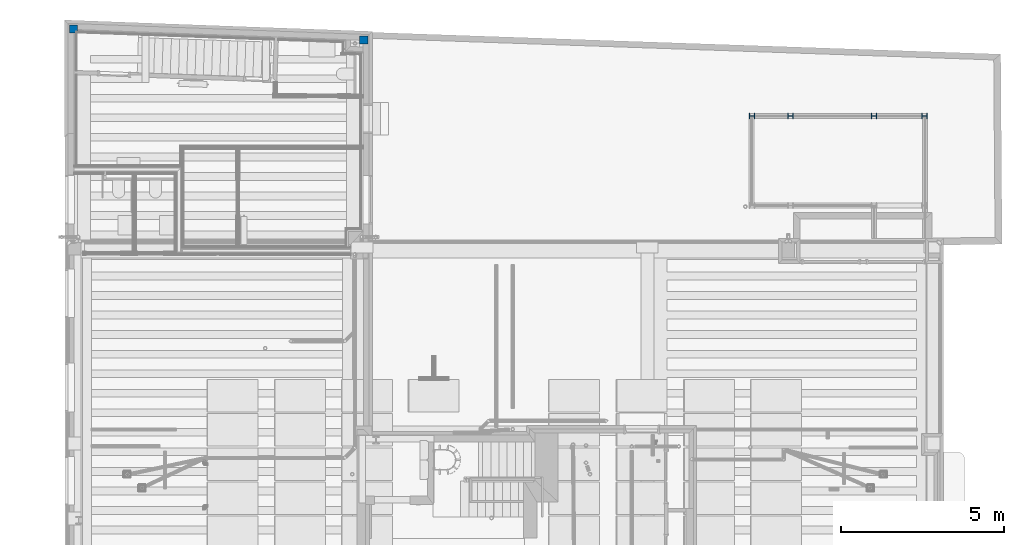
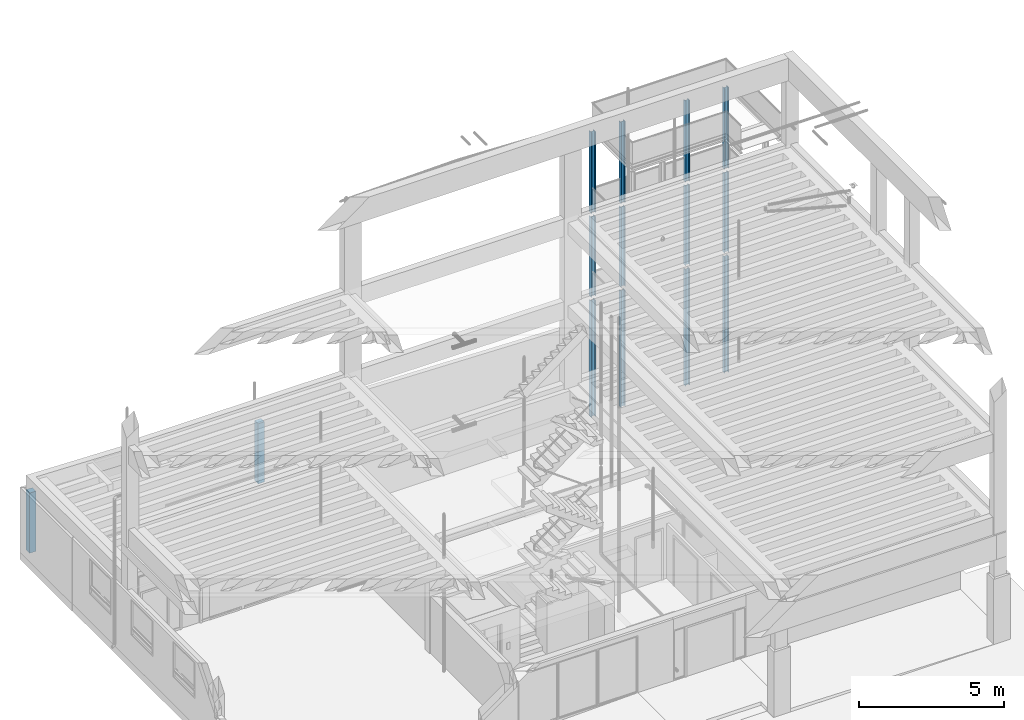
# One storey, part 3 of 108: 14 columns.
"""IFC2X3 building model written with IfcOpenShell, lengths in metres."""

from ifc_helpers import new_model, entity, si_unit, converted_unit, derived_unit, money_unit, direction, frame, frame_2d, origin_with_axes, place, context, subcontext, project, spatial, polyline, rectangle, outline, extrude, material, type_object, element, save


model = new_model("IFC2X3")

# Units and contexts
model_context = context("Model", 3, precision=1e-05, world=origin_with_axes(), true_north=direction((0.0, 1.0)))
body_context = subcontext(model_context, "Body", "Model", "MODEL_VIEW", scale=1.0)
ifc_project = project(units=[si_unit("LENGTHUNIT", "METRE"), si_unit("AREAUNIT", "SQUARE_METRE"), si_unit("VOLUMEUNIT", "CUBIC_METRE"), si_unit("ABSORBEDDOSEUNIT", "GRAY"), si_unit("AMOUNTOFSUBSTANCEUNIT", "MOLE"), si_unit("DOSEEQUIVALENTUNIT", "SIEVERT"), si_unit("ELECTRICCAPACITANCEUNIT", "FARAD"), si_unit("ELECTRICCHARGEUNIT", "COULOMB"), si_unit("ELECTRICCONDUCTANCEUNIT", "SIEMENS"), si_unit("ELECTRICCURRENTUNIT", "AMPERE"), si_unit("ELECTRICRESISTANCEUNIT", "OHM"), si_unit("ELECTRICVOLTAGEUNIT", "VOLT"), si_unit("ENERGYUNIT", "JOULE"), si_unit("FORCEUNIT", "NEWTON"), si_unit("FREQUENCYUNIT", "HERTZ"), si_unit("ILLUMINANCEUNIT", "LUX"), si_unit("INDUCTANCEUNIT", "HENRY"), si_unit("LUMINOUSFLUXUNIT", "LUMEN"), si_unit("LUMINOUSINTENSITYUNIT", "CANDELA"), si_unit("MAGNETICFLUXDENSITYUNIT", "TESLA"), si_unit("MAGNETICFLUXUNIT", "WEBER"), si_unit("MASSUNIT", "GRAM"), converted_unit("PLANEANGLEUNIT", "degree", entity("IfcReal", 0.0174532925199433), si_unit("PLANEANGLEUNIT", "RADIAN"), dimensions=[0, 0, 0, 0, 0, 0, 0]), si_unit("POWERUNIT", "WATT"), si_unit("PRESSUREUNIT", "PASCAL"), si_unit("RADIOACTIVITYUNIT", "BECQUEREL"), si_unit("SOLIDANGLEUNIT", "STERADIAN"), si_unit("THERMODYNAMICTEMPERATUREUNIT", "KELVIN"), si_unit("TIMEUNIT", "SECOND"), derived_unit("ACCELERATIONUNIT", [(si_unit("LENGTHUNIT", "METRE"), 1), (si_unit("TIMEUNIT", "SECOND"), -2)]), derived_unit("ANGULARVELOCITYUNIT", [(converted_unit("PLANEANGLEUNIT", "degree", entity("IfcReal", 0.0174532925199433), si_unit("PLANEANGLEUNIT", "RADIAN"), dimensions=[0, 0, 0, 0, 0, 0, 0]), 1), (si_unit("TIMEUNIT", "SECOND"), -1)]), derived_unit("CURVATUREUNIT", [(converted_unit("PLANEANGLEUNIT", "degree", entity("IfcReal", 0.0174532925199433), si_unit("PLANEANGLEUNIT", "RADIAN"), dimensions=[0, 0, 0, 0, 0, 0, 0]), 1), (si_unit("LENGTHUNIT", "METRE"), -1)]), derived_unit("DYNAMICVISCOSITYUNIT", [(si_unit("PRESSUREUNIT", "PASCAL"), 1), (si_unit("TIMEUNIT", "SECOND"), 1)]), derived_unit("HEATFLUXDENSITYUNIT", [(si_unit("POWERUNIT", "WATT"), 1), (si_unit("LENGTHUNIT", "METRE"), -2)]), derived_unit("HEATINGVALUEUNIT", [(si_unit("ENERGYUNIT", "JOULE"), 1), (si_unit("MASSUNIT", "GRAM"), -1)]), derived_unit("INTEGERCOUNTRATEUNIT", [(si_unit("TIMEUNIT", "SECOND"), -1)]), derived_unit("IONCONCENTRATIONUNIT", [(si_unit("MASSUNIT", "GRAM"), 1), (si_unit("VOLUMEUNIT", "CUBIC_METRE"), -1)]), derived_unit("ISOTHERMALMOISTURECAPACITYUNIT", [(si_unit("VOLUMEUNIT", "CUBIC_METRE"), 1), (si_unit("MASSUNIT", "GRAM"), -1)]), derived_unit("KINEMATICVISCOSITYUNIT", [(si_unit("AREAUNIT", "SQUARE_METRE"), 1), (si_unit("TIMEUNIT", "SECOND"), -1)]), derived_unit("LINEARFORCEUNIT", [(si_unit("FORCEUNIT", "NEWTON"), 1), (si_unit("LENGTHUNIT", "METRE"), -1)]), derived_unit("LINEARMOMENTUNIT", [(si_unit("FORCEUNIT", "NEWTON"), 1), (si_unit("LENGTHUNIT", "METRE"), -1)]), derived_unit("LINEARSTIFFNESSUNIT", [(si_unit("FORCEUNIT", "NEWTON"), 1), (si_unit("LENGTHUNIT", "METRE"), -1)]), derived_unit("LINEARVELOCITYUNIT", [(si_unit("LENGTHUNIT", "METRE"), 1), (si_unit("TIMEUNIT", "SECOND"), -1)]), derived_unit("LUMINOUSINTENSITYDISTRIBUTIONUNIT", [(si_unit("LUMINOUSINTENSITYUNIT", "CANDELA"), 1), (si_unit("LUMINOUSFLUXUNIT", "LUMEN"), -1)]), derived_unit("MASSDENSITYUNIT", [(si_unit("MASSUNIT", "GRAM"), 1), (si_unit("VOLUMEUNIT", "CUBIC_METRE"), -1)]), derived_unit("MASSFLOWRATEUNIT", [(si_unit("MASSUNIT", "GRAM"), 1), (si_unit("TIMEUNIT", "SECOND"), -1)]), derived_unit("MASSPERLENGTHUNIT", [(si_unit("MASSUNIT", "GRAM"), 1), (si_unit("LENGTHUNIT", "METRE"), -1)]), derived_unit("MODULUSOFELASTICITYUNIT", [(si_unit("FORCEUNIT", "NEWTON"), 1), (si_unit("AREAUNIT", "SQUARE_METRE"), -1)]), derived_unit("MODULUSOFLINEARSUBGRADEREACTIONUNIT", [(si_unit("FORCEUNIT", "NEWTON"), 1), (si_unit("LENGTHUNIT", "METRE"), -2)]), derived_unit("MODULUSOFROTATIONALSUBGRADEREACTIONUNIT", [(si_unit("FORCEUNIT", "NEWTON"), 1), (si_unit("LENGTHUNIT", "METRE"), 1)]), derived_unit("MODULUSOFSUBGRADEREACTIONUNIT", [(si_unit("FORCEUNIT", "NEWTON"), 1), (si_unit("VOLUMEUNIT", "CUBIC_METRE"), -1)]), derived_unit("MOISTUREDIFFUSIVITYUNIT", [(si_unit("VOLUMEUNIT", "CUBIC_METRE"), 1), (si_unit("TIMEUNIT", "SECOND"), -1)]), derived_unit("MOLECULARWEIGHTUNIT", [(si_unit("MASSUNIT", "GRAM"), 1), (si_unit("AMOUNTOFSUBSTANCEUNIT", "MOLE"), -1)]), derived_unit("PLANARFORCEUNIT", [(si_unit("FORCEUNIT", "NEWTON"), 1), (si_unit("LENGTHUNIT", "METRE"), -2)]), derived_unit("ROTATIONALFREQUENCYUNIT", [(si_unit("TIMEUNIT", "SECOND"), -1)]), derived_unit("ROTATIONALMASSUNIT", [(si_unit("MASSUNIT", "GRAM"), 1), (si_unit("LENGTHUNIT", "METRE"), 2)]), derived_unit("ROTATIONALSTIFFNESSUNIT", [(si_unit("FORCEUNIT", "NEWTON"), 1), (si_unit("LENGTHUNIT", "METRE"), 1), (converted_unit("PLANEANGLEUNIT", "degree", entity("IfcReal", 0.0174532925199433), si_unit("PLANEANGLEUNIT", "RADIAN"), dimensions=[0, 0, 0, 0, 0, 0, 0]), -1)]), derived_unit("SECTIONAREAINTEGRALUNIT", [(si_unit("LENGTHUNIT", "METRE"), 5)]), derived_unit("SECTIONMODULUSUNIT", [(si_unit("LENGTHUNIT", "METRE"), 3)]), derived_unit("SHEARMODULUSUNIT", [(si_unit("FORCEUNIT", "NEWTON"), 1), (si_unit("AREAUNIT", "SQUARE_METRE"), -1)]), derived_unit("SOUNDPOWERUNIT", [(si_unit("ENERGYUNIT", "JOULE"), 1), (si_unit("TIMEUNIT", "SECOND"), -1)]), derived_unit("SPECIFICHEATCAPACITYUNIT", [(si_unit("FORCEUNIT", "NEWTON"), 1), (si_unit("MASSUNIT", "GRAM"), -1), (si_unit("THERMODYNAMICTEMPERATUREUNIT", "KELVIN"), -1)]), derived_unit("TEMPERATUREGRADIENTUNIT", [(si_unit("THERMODYNAMICTEMPERATUREUNIT", "KELVIN"), 1), (si_unit("LENGTHUNIT", "METRE"), -1)]), derived_unit("THERMALADMITTANCEUNIT", [(si_unit("POWERUNIT", "WATT"), 1), (si_unit("AREAUNIT", "SQUARE_METRE"), -1), (si_unit("THERMODYNAMICTEMPERATUREUNIT", "KELVIN"), -1)]), derived_unit("THERMALCONDUCTANCEUNIT", [(si_unit("POWERUNIT", "WATT"), 1), (si_unit("LENGTHUNIT", "METRE"), -1), (si_unit("THERMODYNAMICTEMPERATUREUNIT", "KELVIN"), -1)]), derived_unit("THERMALEXPANSIONCOEFFICIENTUNIT", [(si_unit("THERMODYNAMICTEMPERATUREUNIT", "KELVIN"), -1)]), derived_unit("THERMALRESISTANCEUNIT", [(si_unit("AREAUNIT", "SQUARE_METRE"), 1), (si_unit("POWERUNIT", "WATT"), -1)]), derived_unit("THERMALTRANSMITTANCEUNIT", [(si_unit("POWERUNIT", "WATT"), 1), (si_unit("AREAUNIT", "SQUARE_METRE"), -1), (si_unit("THERMODYNAMICTEMPERATUREUNIT", "KELVIN"), -1)]), derived_unit("TORQUEUNIT", [(si_unit("FORCEUNIT", "NEWTON"), 1), (si_unit("LENGTHUNIT", "METRE"), 1)]), derived_unit("VAPORPERMEABILITYUNIT", [(si_unit("MASSUNIT", "GRAM"), 1), (si_unit("TIMEUNIT", "SECOND"), -1)]), derived_unit("VOLUMETRICFLOWRATEUNIT", [(si_unit("VOLUMEUNIT", "CUBIC_METRE"), 1), (si_unit("TIMEUNIT", "SECOND"), -1)]), derived_unit("WARPINGCONSTANTUNIT", [(si_unit("LENGTHUNIT", "METRE"), 6)]), derived_unit("WARPINGMOMENTUNIT", [(si_unit("FORCEUNIT", "NEWTON"), 1), (si_unit("LENGTHUNIT", "METRE"), 2)]), money_unit("GBP")], contexts=[model_context])

# Site, building, storey
site_placement = place(None, origin_with_axes())
site = spatial("IfcSite", under=ifc_project, at=site_placement, Name="Site", CompositionType="ELEMENT")
building_placement = place(site_placement, origin_with_axes())
building = spatial("IfcBuilding", under=site, at=building_placement, Name="Building01", CompositionType="ELEMENT")
storey_placement = place(building_placement, origin_with_axes())
storey = spatial("IfcBuildingStorey", under=building, at=storey_placement, Name="GF", CompositionType="ELEMENT", Elevation=0.0)

# Columns
ifc_material_1 = material(Name="A_BSUK_Columns_Steel")
column_type_1 = type_object("IfcColumnType", Name="A-Columns-Steel", PredefinedType="COLUMN")
for number, where, z_axis, x_axis, name in (
    (1, (26.490035, 18.584781, 0.0), (0.0, 0.0, 1.0), (0.0, 1.0, 0.0), "A-Columns-Steel"),
    (2, (24.940035, 18.584781, 0.0), (0.0, 0.0, 1.0), (0.0, 1.0, 0.0), "A-Columns-Steel"),
    (3, (22.370035, 18.584781, 0.0), (0.0, 0.0, 1.0), (0.0, 1.0, 0.0), "A-Columns-Steel"),
    (4, (21.181634, 18.584781, 0.0), (0.0, 0.0, 1.0), (0.0, 1.0, 0.0), "A-Columns-Steel"),
):
    element("IfcColumn", number, at=place(storey_placement, frame(where, z_axis=z_axis, x_axis=x_axis)), inside=storey, type_object=column_type_1, material=ifc_material_1, Name=name, ObjectType="A-Columns-Steel", context=body_context, shape_type="SweptSolid", body=[
        extrude(outline(polyline([(0.1574, 0.0), (0.1574, 0.0157), (0.0842, 0.0157), (0.0842, 0.1545), (0.1574, 0.1545), (0.1574, 0.1702), (0.0, 0.1702), (0.0, 0.1545), (0.0732, 0.1545), (0.0732, 0.0157), (0.0, 0.0157), (0.0, 0.0), (0.1574, 0.0)])), origin_with_axes(), (0.0, 0.0, 1.0), 4.894),
    ])
for number, where, z_axis, x_axis, name in (
    (5, (26.490035, 18.584781, 5.064467), (0.0, 0.0, 1.0), (0.0, 1.0, 0.0), "A-Columns-Steel"),
    (6, (24.940035, 18.584781, 5.064467), (0.0, 0.0, 1.0), (0.0, 1.0, 0.0), "A-Columns-Steel"),
    (7, (22.370035, 18.584781, 5.064467), (0.0, 0.0, 1.0), (0.0, 1.0, 0.0), "A-Columns-Steel"),
    (8, (21.181634, 18.584781, 5.064467), (0.0, 0.0, 1.0), (0.0, 1.0, 0.0), "A-Columns-Steel"),
):
    element("IfcColumn", number, at=place(storey_placement, frame(where, z_axis=z_axis, x_axis=x_axis)), inside=storey, type_object=column_type_1, material=ifc_material_1, Name=name, ObjectType="A-Columns-Steel", context=body_context, shape_type="SweptSolid", body=[
        extrude(outline(polyline([(0.1574, 0.0), (0.1574, 0.0157), (0.0842, 0.0157), (0.0842, 0.1545), (0.1574, 0.1545), (0.1574, 0.1702), (0.0, 0.1702), (0.0, 0.1545), (0.0732, 0.1545), (0.0732, 0.0157), (0.0, 0.0157), (0.0, 0.0), (0.1574, 0.0)])), origin_with_axes(), (0.0, 0.0, 1.0), 3.353),
    ])
for number, where, z_axis, x_axis, name in (
    (9, (21.181634, 18.584781, 8.587442), (0.0, 0.0, 1.0), (0.0, 1.0, 0.0), "A-Columns-Steel"),
    (10, (22.370035, 18.584781, 8.587442), (0.0, 0.0, 1.0), (0.0, 1.0, 0.0), "A-Columns-Steel"),
    (11, (24.940035, 18.584781, 8.587442), (0.0, 0.0, 1.0), (0.0, 1.0, 0.0), "A-Columns-Steel"),
    (12, (26.490035, 18.584781, 8.587442), (0.0, 0.0, 1.0), (0.0, 1.0, 0.0), "A-Columns-Steel"),
):
    element("IfcColumn", number, at=place(storey_placement, frame(where, z_axis=z_axis, x_axis=x_axis)), inside=storey, type_object=column_type_1, material=ifc_material_1, Name=name, ObjectType="A-Columns-Steel", context=body_context, shape_type="SweptSolid", body=[
        extrude(outline(polyline([(0.1574, 0.0), (0.1574, 0.0157), (0.0842, 0.0157), (0.0842, 0.1545), (0.1574, 0.1545), (0.1574, 0.1702), (0.0, 0.1702), (0.0, 0.1545), (0.0732, 0.1545), (0.0732, 0.0157), (0.0, 0.0157), (0.0, 0.0), (0.1574, 0.0)])), origin_with_axes(), (0.0, 0.0, 1.0), 3.413),
    ])
ifc_material_2 = material(Name="A_BSUK_Columns_ReinforcedConcrete")
column_type_2 = type_object("IfcColumnType", Name="A-Columns-Concrete", PredefinedType="COLUMN")
for number, where, z_axis, x_axis, name in (
    (13, (0.140679, 21.208056, 0.0), (0.0, 0.0, 1.0), (1.0, 0.0, 0.0), "A-Columns-Concrete"),
    (14, (9.053038, 20.877455, 0.0), (0.0, 0.0, 1.0), (1.0, 0.0, 0.0), "A-Columns-Concrete"),
):
    element("IfcColumn", number, at=place(storey_placement, frame(where, z_axis=z_axis, x_axis=x_axis)), inside=storey, type_object=column_type_2, material=ifc_material_2, Name=name, ObjectType="A-Columns-Concrete", context=body_context, shape_type="SweptSolid", body=[
        extrude(rectangle(XDim=0.25, YDim=0.25, at=frame_2d((0.125, 0.125), x_axis=(0.0, 1.0))), origin_with_axes(), (0.0, 0.0, 1.0), 2.535),
    ])

save(model, "model.ifc")
